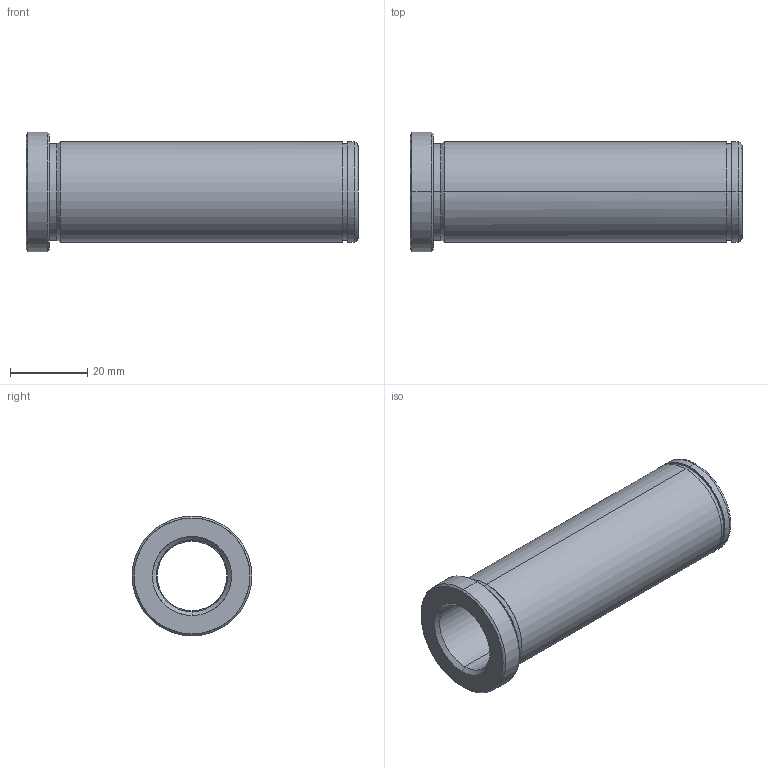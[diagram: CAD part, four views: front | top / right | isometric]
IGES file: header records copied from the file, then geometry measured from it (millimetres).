
Start section: START RECORD GO HERE.
Global section: file name: 553-18X86.igs; native system: DASSAULT SYSTEMES CATIA V5 R20 - www.3ds.com; preprocessor: CATIA Version 5 Release 20 ; author: Utente; organization: NB04-ASUS; date: 20210523.192637; units: millimetre
Bounding box: 86 x 31 x 31 mm (x, y, z)
Surface area: 12987.6 mm2 (no closed solid volume)
Topology: 0 solids, 0 shells, 32 faces, 204 edges, 204 vertices
Faces by surface type: revolution 26, plane 6
